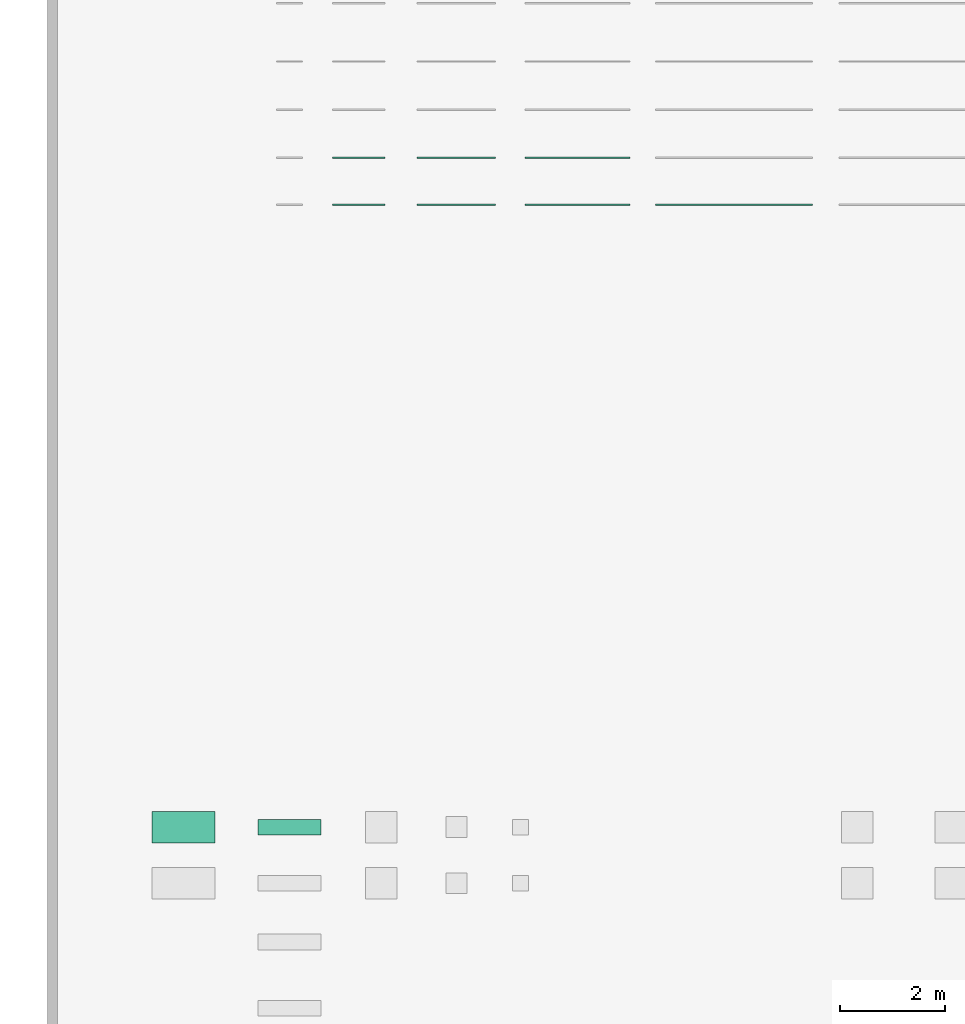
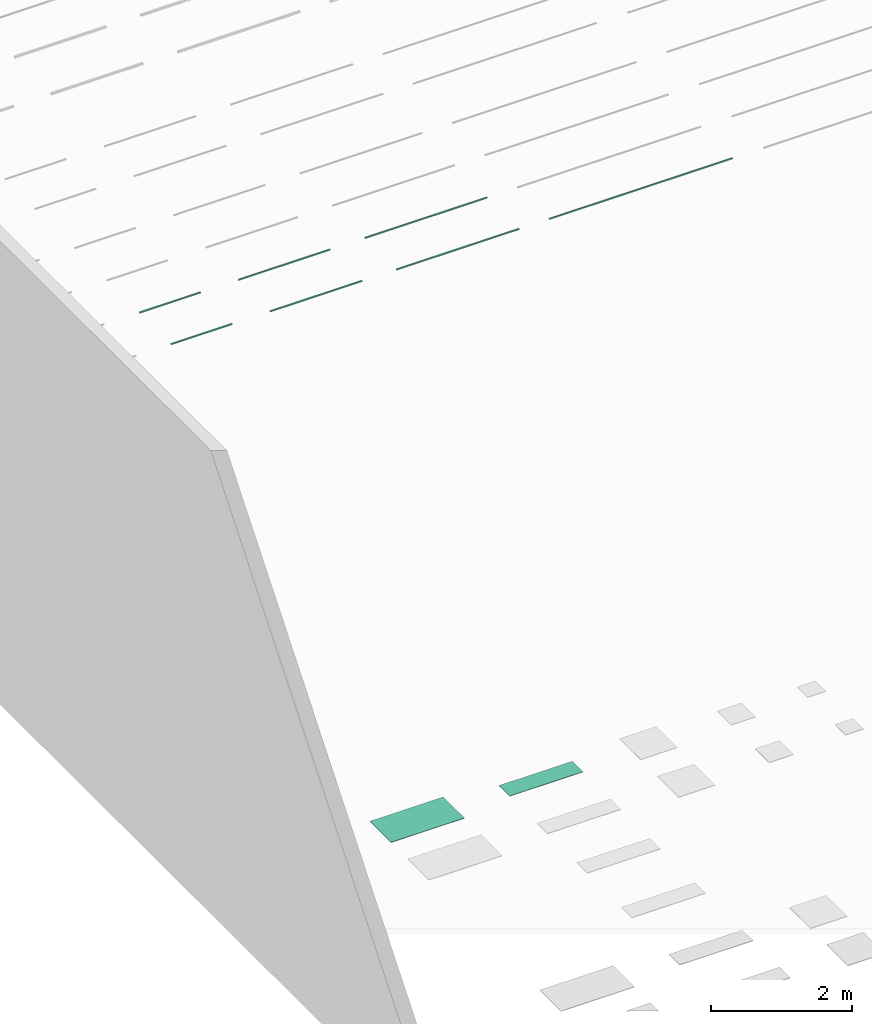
# One storey, part 5 of 197: 9 flow terminals.
"""IFC2X3 building model written with IfcOpenShell, lengths in metres."""

from ifc_helpers import new_model, entity, si_unit, converted_unit, direction, frame, frame_2d, origin, origin_2d_with_axis, place, context, subcontext, project, spatial, polyline, rectangle, circle, outline, extrude, source, transform, mapped, material, material_list, type_object, type_shapes, element, save


model = new_model("IFC2X3")

# Units and contexts
model_context = context("Model", 3, precision=1e-05, world=origin(), true_north=direction((6.123031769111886e-17, 1.0)))
body_context = subcontext(model_context, "Body", "Model", "MODEL_VIEW")
ifc_project = project(units=[si_unit("LENGTHUNIT", "METRE"), converted_unit("PLANEANGLEUNIT", "DEGREE", entity("IfcPlaneAngleMeasure", 0.017453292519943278), si_unit("PLANEANGLEUNIT", "RADIAN"), dimensions=[0, 0, 0, 0, 0, 0, 0]), si_unit("AREAUNIT", "SQUARE_METRE")], contexts=[model_context])

# Site, building, storey
site_placement = place(None, origin())
site = spatial("IfcSite", under=ifc_project, at=site_placement, Name="Default", CompositionType="ELEMENT")
building_placement = place(site_placement, origin())
building = spatial("IfcBuilding", under=site, at=building_placement, CompositionType="ELEMENT")
storey_placement = place(building_placement, origin())
storey = spatial("IfcBuildingStorey", under=building, at=storey_placement, Name="Niveau 0", CompositionType="ELEMENT", Elevation=0.0)

# Flow terminals
ifc_material_1 = material(Name="BETCE-DIFFUSEUR-BLANC")
ifc_material_2 = material(Name="<Unnamed>")
ifc_material_list = material_list([ifc_material_1, ifc_material_2])
light_fixture_type_1 = type_object("IfcLightFixtureType", Name="Profilé alu sailli_suspendu_engravure-20X20:PROF-ENGRAVURE -1.5M", PredefinedType="NOTDEFINED", material=ifc_material_list)
shared_shape_1 = source(origin(), body_context, "Body", "SweptSolid", [
    extrude(rectangle(XDim=1.496, YDim=0.018935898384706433, at=origin_2d_with_axis()), frame((0.0, 0.0, 1.4999999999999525), z_axis=(0.0, 0.0, 1.0), x_axis=(-1.0, 0.0, 0.0)), (0.0, 0.0, 1.0), 0.0008000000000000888),
    extrude(outline(polyline([(0.004349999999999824, -0.009467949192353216), (0.0051499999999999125, -0.009467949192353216), (0.0051499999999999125, 0.009467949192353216), (0.004349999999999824, 0.009467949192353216), (0.004349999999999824, 0.010467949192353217), (-0.0138500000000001, 0.010467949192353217), (-0.0138500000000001, -0.010467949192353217), (0.004349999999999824, -0.010467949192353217), (0.004349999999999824, -0.009467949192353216)])), frame((0.748, 0.0, 1.5051499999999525), z_axis=(1.0, 0.0, 0.0), x_axis=(0.0, 0.0, -1.0)), (0.0, 0.0, 1.0), 0.0019999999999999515),
    extrude(outline(polyline([(0.009467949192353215, -0.004349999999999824), (0.010467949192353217, -0.004349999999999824), (0.010467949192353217, 0.0138500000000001), (-0.010467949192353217, 0.0138500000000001), (-0.010467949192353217, -0.004349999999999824), (-0.009467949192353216, -0.004349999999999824), (-0.009467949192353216, -0.0051499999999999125), (0.009467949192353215, -0.0051499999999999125), (0.009467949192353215, -0.004349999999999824)])), frame((-0.7499999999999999, 0.0, 1.5051499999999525), z_axis=(1.0, 0.0, 0.0), x_axis=(0.0, 1.0, 0.0)), (0.0, 0.0, 1.0), 0.0019999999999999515),
    extrude(outline(polyline([(-0.012292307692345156, -0.011500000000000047), (0.007707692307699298, -0.011500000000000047), (0.007707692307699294, -0.009467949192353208), (0.0069076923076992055, -0.009467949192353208), (0.006907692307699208, -0.010467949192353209), (-0.011292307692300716, -0.010467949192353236), (-0.011292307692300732, 0.0), (-0.011292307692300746, 0.010467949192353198), (0.006907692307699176, 0.010467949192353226), (0.006907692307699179, 0.009467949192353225), (0.0077076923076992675, 0.009467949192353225), (0.007707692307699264, 0.011500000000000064), (-0.012292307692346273, 0.011500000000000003), (-0.012292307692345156, -0.011500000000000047)])), frame((-0.7499999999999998, 0.0, 1.5077076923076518), z_axis=(1.0, 0.0, 0.0), x_axis=(0.0, 0.0, -1.0)), (0.0, 0.0, 1.0), 1.4999999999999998),
    extrude(circle(Radius=0.0019999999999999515, at=frame_2d((1.5388467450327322e-29, 0.0), x_axis=(1.0, 0.0))), frame((-0.6499999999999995, 0.0, 1.5199999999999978), z_axis=(0.0, 0.0, 1.0), x_axis=(0.0, -1.0, 0.0)), (0.0, 0.0, 1.0), 0.0010000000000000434),
    extrude(circle(Radius=0.0019999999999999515, at=frame_2d((-4.123551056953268e-20, 0.0), x_axis=(1.0, 0.0))), frame((0.6500000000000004, 0.0, 1.5199999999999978), z_axis=(0.0, 0.0, 1.0), x_axis=(0.0, -1.0, 0.0)), (0.0, 0.0, 1.0), 0.0010000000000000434),
])
type_shapes(light_fixture_type_1, [shared_shape_1])
flow_terminal_1_placement = place(storey_placement, frame((-532.8067105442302, 60.49435524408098, 0.0)))
element("IfcFlowTerminal", 1, at=flow_terminal_1_placement, inside=storey, type_object=light_fixture_type_1, material=ifc_material_list, Name="Profilé alu sailli_suspendu_engravure-20X20:PROF-ENGRAVURE -1.5M", ObjectType="Profilé alu sailli_suspendu_engravure-20X20:PROF-ENGRAVURE -1.5M", context=body_context, shape_type="MappedRepresentation", body=[
    mapped(shared_shape_1, transform((0.0, 0.0, 0.0), scale=1.0)),
])
light_fixture_type_2 = type_object("IfcLightFixtureType", Name="Profilé alu sailli_suspendu_engravure-20X20:PROF-ENGRAVURE -1M", PredefinedType="NOTDEFINED", material=ifc_material_list)
shared_shape_2 = source(origin(), body_context, "Body", "SweptSolid", [
    extrude(rectangle(XDim=0.9959999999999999, YDim=0.018935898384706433, at=origin_2d_with_axis()), frame((0.0, 0.0, 1.4999999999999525), z_axis=(0.0, 0.0, 1.0), x_axis=(-1.0, 0.0, 0.0)), (0.0, 0.0, 1.0), 0.0008000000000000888),
    extrude(outline(polyline([(0.004349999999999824, -0.009467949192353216), (0.0051499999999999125, -0.009467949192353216), (0.0051499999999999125, 0.009467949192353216), (0.004349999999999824, 0.009467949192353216), (0.004349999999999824, 0.010467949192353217), (-0.0138500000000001, 0.010467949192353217), (-0.0138500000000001, -0.010467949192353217), (0.004349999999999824, -0.010467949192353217), (0.004349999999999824, -0.009467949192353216)])), frame((0.498, 0.0, 1.5051499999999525), z_axis=(1.0, 0.0, 0.0), x_axis=(0.0, 0.0, -1.0)), (0.0, 0.0, 1.0), 0.002000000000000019),
    extrude(outline(polyline([(0.009467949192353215, -0.004349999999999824), (0.010467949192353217, -0.004349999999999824), (0.010467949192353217, 0.0138500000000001), (-0.010467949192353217, 0.0138500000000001), (-0.010467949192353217, -0.004349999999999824), (-0.009467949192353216, -0.004349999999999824), (-0.009467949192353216, -0.0051499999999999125), (0.009467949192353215, -0.0051499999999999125), (0.009467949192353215, -0.004349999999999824)])), frame((-0.49999999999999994, 0.0, 1.5051499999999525), z_axis=(1.0, 0.0, 0.0), x_axis=(0.0, 1.0, 0.0)), (0.0, 0.0, 1.0), 0.002000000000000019),
    extrude(outline(polyline([(-0.012292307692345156, -0.011500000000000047), (0.007707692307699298, -0.011500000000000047), (0.007707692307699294, -0.009467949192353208), (0.0069076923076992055, -0.009467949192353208), (0.006907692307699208, -0.010467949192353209), (-0.011292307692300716, -0.010467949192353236), (-0.011292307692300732, 0.0), (-0.011292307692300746, 0.010467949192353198), (0.006907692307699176, 0.010467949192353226), (0.006907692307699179, 0.009467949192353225), (0.0077076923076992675, 0.009467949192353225), (0.007707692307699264, 0.011500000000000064), (-0.012292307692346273, 0.011500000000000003), (-0.012292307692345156, -0.011500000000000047)])), frame((-0.49999999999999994, 0.0, 1.5077076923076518), z_axis=(1.0, 0.0, 0.0), x_axis=(0.0, 0.0, -1.0)), (0.0, 0.0, 1.0), 1.0),
    extrude(circle(Radius=0.0019999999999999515, at=frame_2d((1.5388467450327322e-29, 0.0), x_axis=(1.0, 0.0))), frame((-0.3999999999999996, 0.0, 1.5199999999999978), z_axis=(0.0, 0.0, 1.0), x_axis=(0.0, -1.0, 0.0)), (0.0, 0.0, 1.0), 0.0010000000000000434),
    extrude(circle(Radius=0.0019999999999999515, at=frame_2d((-4.123551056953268e-20, 0.0), x_axis=(1.0, 0.0))), frame((0.40000000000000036, 0.0, 1.5199999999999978), z_axis=(0.0, 0.0, 1.0), x_axis=(0.0, -1.0, 0.0)), (0.0, 0.0, 1.0), 0.0010000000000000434),
])
type_shapes(light_fixture_type_2, [shared_shape_2])
flow_terminal_2_placement = place(storey_placement, frame((-534.6757105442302, 60.49435524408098, 0.0)))
element("IfcFlowTerminal", 2, at=flow_terminal_2_placement, inside=storey, type_object=light_fixture_type_2, material=ifc_material_list, Name="Profilé alu sailli_suspendu_engravure-20X20:PROF-ENGRAVURE -1M", ObjectType="Profilé alu sailli_suspendu_engravure-20X20:PROF-ENGRAVURE -1M", context=body_context, shape_type="MappedRepresentation", body=[
    mapped(shared_shape_2, transform((0.0, 0.0, 0.0), scale=1.0)),
])
light_fixture_type_3 = type_object("IfcLightFixtureType", Name="Profilé alu sailli_suspendu_engravure-20X20:PROF-ENGRAVURE -2M", PredefinedType="NOTDEFINED", material=ifc_material_list)
shared_shape_3 = source(origin(), body_context, "Body", "SweptSolid", [
    extrude(rectangle(XDim=1.996, YDim=0.018935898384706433, at=origin_2d_with_axis()), frame((0.0, 0.0, 1.4999999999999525), z_axis=(0.0, 0.0, 1.0), x_axis=(-1.0, 0.0, 0.0)), (0.0, 0.0, 1.0), 0.0008000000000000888),
    extrude(outline(polyline([(0.004349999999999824, -0.009467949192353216), (0.0051499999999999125, -0.009467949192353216), (0.0051499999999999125, 0.009467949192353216), (0.004349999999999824, 0.009467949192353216), (0.004349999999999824, 0.010467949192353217), (-0.0138500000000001, 0.010467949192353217), (-0.0138500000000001, -0.010467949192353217), (0.004349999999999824, -0.010467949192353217), (0.004349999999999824, -0.009467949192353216)])), frame((0.9980000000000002, 0.0, 1.5051499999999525), z_axis=(1.0, 0.0, 0.0), x_axis=(0.0, 0.0, -1.0)), (0.0, 0.0, 1.0), 0.0019999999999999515),
    extrude(outline(polyline([(0.009467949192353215, -0.004349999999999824), (0.010467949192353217, -0.004349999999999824), (0.010467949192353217, 0.0138500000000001), (-0.010467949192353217, 0.0138500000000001), (-0.010467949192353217, -0.004349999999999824), (-0.009467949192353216, -0.004349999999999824), (-0.009467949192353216, -0.0051499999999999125), (0.009467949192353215, -0.0051499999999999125), (0.009467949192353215, -0.004349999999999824)])), frame((-1.0, 0.0, 1.5051499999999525), z_axis=(1.0, 0.0, 0.0), x_axis=(0.0, 1.0, 0.0)), (0.0, 0.0, 1.0), 0.0019999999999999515),
    extrude(outline(polyline([(-0.012292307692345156, -0.011500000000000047), (0.007707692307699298, -0.011500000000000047), (0.007707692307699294, -0.009467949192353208), (0.0069076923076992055, -0.009467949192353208), (0.006907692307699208, -0.010467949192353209), (-0.011292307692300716, -0.010467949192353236), (-0.011292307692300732, 0.0), (-0.011292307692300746, 0.010467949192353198), (0.006907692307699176, 0.010467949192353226), (0.006907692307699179, 0.009467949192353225), (0.0077076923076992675, 0.009467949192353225), (0.007707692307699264, 0.011500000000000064), (-0.012292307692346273, 0.011500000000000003), (-0.012292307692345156, -0.011500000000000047)])), frame((-1.0, 0.0, 1.5077076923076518), z_axis=(1.0, 0.0, 0.0), x_axis=(0.0, 0.0, -1.0)), (0.0, 0.0, 1.0), 1.9999999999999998),
    extrude(circle(Radius=0.0019999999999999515, at=frame_2d((8.359256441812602e-30, 0.0), x_axis=(1.0, 0.0))), frame((-0.8999999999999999, 0.0, 1.5199999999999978), z_axis=(0.0, 0.0, 1.0), x_axis=(0.0, -1.0, 0.0)), (0.0, 0.0, 1.0), 0.0010000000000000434),
    extrude(circle(Radius=0.0019999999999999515, at=frame_2d((-4.123551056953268e-20, 0.0), x_axis=(1.0, 0.0))), frame((0.9000000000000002, 0.0, 1.5199999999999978), z_axis=(0.0, 0.0, 1.0), x_axis=(0.0, -1.0, 0.0)), (0.0, 0.0, 1.0), 0.0010000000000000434),
])
type_shapes(light_fixture_type_3, [shared_shape_3])
flow_terminal_3_placement = place(storey_placement, frame((-530.4917105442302, 60.49435524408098, 0.0)))
element("IfcFlowTerminal", 3, at=flow_terminal_3_placement, inside=storey, type_object=light_fixture_type_3, material=ifc_material_list, Name="Profilé alu sailli_suspendu_engravure-20X20:PROF-ENGRAVURE -2M", ObjectType="Profilé alu sailli_suspendu_engravure-20X20:PROF-ENGRAVURE -2M", context=body_context, shape_type="MappedRepresentation", body=[
    mapped(shared_shape_3, transform((0.0, 0.0, 0.0), scale=1.0)),
])
light_fixture_type_4 = type_object("IfcLightFixtureType", Name="Profilé alu sailli_suspendu_engravure-20X20:PROF-ENGRAVURE DALI -1.5M", PredefinedType="NOTDEFINED", material=ifc_material_list)
shared_shape_4 = source(origin(), body_context, "Body", "SweptSolid", [
    extrude(rectangle(XDim=1.496, YDim=0.018935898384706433, at=origin_2d_with_axis()), frame((0.0, 0.0, 1.4999999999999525), z_axis=(0.0, 0.0, 1.0), x_axis=(-1.0, 0.0, 0.0)), (0.0, 0.0, 1.0), 0.0008000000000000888),
    extrude(outline(polyline([(0.004349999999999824, -0.009467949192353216), (0.0051499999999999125, -0.009467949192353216), (0.0051499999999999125, 0.009467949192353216), (0.004349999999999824, 0.009467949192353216), (0.004349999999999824, 0.010467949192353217), (-0.0138500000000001, 0.010467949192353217), (-0.0138500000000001, -0.010467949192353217), (0.004349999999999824, -0.010467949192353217), (0.004349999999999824, -0.009467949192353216)])), frame((0.748, 0.0, 1.5051499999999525), z_axis=(1.0, 0.0, 0.0), x_axis=(0.0, 0.0, -1.0)), (0.0, 0.0, 1.0), 0.0019999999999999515),
    extrude(outline(polyline([(0.009467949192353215, -0.004349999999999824), (0.010467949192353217, -0.004349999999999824), (0.010467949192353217, 0.0138500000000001), (-0.010467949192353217, 0.0138500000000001), (-0.010467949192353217, -0.004349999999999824), (-0.009467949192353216, -0.004349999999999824), (-0.009467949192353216, -0.0051499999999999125), (0.009467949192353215, -0.0051499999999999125), (0.009467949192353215, -0.004349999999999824)])), frame((-0.7499999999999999, 0.0, 1.5051499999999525), z_axis=(1.0, 0.0, 0.0), x_axis=(0.0, 1.0, 0.0)), (0.0, 0.0, 1.0), 0.0019999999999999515),
    extrude(outline(polyline([(-0.012292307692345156, -0.011500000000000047), (0.007707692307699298, -0.011500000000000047), (0.007707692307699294, -0.009467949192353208), (0.0069076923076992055, -0.009467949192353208), (0.006907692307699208, -0.010467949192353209), (-0.011292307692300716, -0.010467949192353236), (-0.011292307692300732, 0.0), (-0.011292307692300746, 0.010467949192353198), (0.006907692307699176, 0.010467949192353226), (0.006907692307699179, 0.009467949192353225), (0.0077076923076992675, 0.009467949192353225), (0.007707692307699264, 0.011500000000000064), (-0.012292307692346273, 0.011500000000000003), (-0.012292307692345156, -0.011500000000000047)])), frame((-0.7499999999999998, 0.0, 1.5077076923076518), z_axis=(1.0, 0.0, 0.0), x_axis=(0.0, 0.0, -1.0)), (0.0, 0.0, 1.0), 1.4999999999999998),
    extrude(circle(Radius=0.0019999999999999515, at=frame_2d((1.5388467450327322e-29, 0.0), x_axis=(1.0, 0.0))), frame((-0.6499999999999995, 0.0, 1.5199999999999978), z_axis=(0.0, 0.0, 1.0), x_axis=(0.0, -1.0, 0.0)), (0.0, 0.0, 1.0), 0.0010000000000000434),
    extrude(circle(Radius=0.0019999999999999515, at=frame_2d((-4.123551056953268e-20, 0.0), x_axis=(1.0, 0.0))), frame((0.6500000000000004, 0.0, 1.5199999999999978), z_axis=(0.0, 0.0, 1.0), x_axis=(0.0, -1.0, 0.0)), (0.0, 0.0, 1.0), 0.0010000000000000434),
])
type_shapes(light_fixture_type_4, [shared_shape_4])
flow_terminal_4_placement = place(storey_placement, frame((-532.8067105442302, 59.59735524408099, 0.0)))
element("IfcFlowTerminal", 4, at=flow_terminal_4_placement, inside=storey, type_object=light_fixture_type_4, material=ifc_material_list, Name="Profilé alu sailli_suspendu_engravure-20X20:PROF-ENGRAVURE DALI -1.5M", ObjectType="Profilé alu sailli_suspendu_engravure-20X20:PROF-ENGRAVURE DALI -1.5M", context=body_context, shape_type="MappedRepresentation", body=[
    mapped(shared_shape_4, transform((0.0, 0.0, 0.0), scale=1.0)),
])
light_fixture_type_5 = type_object("IfcLightFixtureType", Name="Profilé alu sailli_suspendu_engravure-20X20:PROF-ENGRAVURE DALI -1M", PredefinedType="NOTDEFINED", material=ifc_material_list)
shared_shape_5 = source(origin(), body_context, "Body", "SweptSolid", [
    extrude(rectangle(XDim=0.9959999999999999, YDim=0.018935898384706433, at=origin_2d_with_axis()), frame((0.0, 0.0, 1.4999999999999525), z_axis=(0.0, 0.0, 1.0), x_axis=(-1.0, 0.0, 0.0)), (0.0, 0.0, 1.0), 0.0008000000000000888),
    extrude(outline(polyline([(0.004349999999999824, -0.009467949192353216), (0.0051499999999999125, -0.009467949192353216), (0.0051499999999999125, 0.009467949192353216), (0.004349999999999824, 0.009467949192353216), (0.004349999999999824, 0.010467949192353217), (-0.0138500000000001, 0.010467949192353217), (-0.0138500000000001, -0.010467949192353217), (0.004349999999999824, -0.010467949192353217), (0.004349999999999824, -0.009467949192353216)])), frame((0.498, 0.0, 1.5051499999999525), z_axis=(1.0, 0.0, 0.0), x_axis=(0.0, 0.0, -1.0)), (0.0, 0.0, 1.0), 0.002000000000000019),
    extrude(outline(polyline([(0.009467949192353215, -0.004349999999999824), (0.010467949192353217, -0.004349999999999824), (0.010467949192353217, 0.0138500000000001), (-0.010467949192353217, 0.0138500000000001), (-0.010467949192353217, -0.004349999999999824), (-0.009467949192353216, -0.004349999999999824), (-0.009467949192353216, -0.0051499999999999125), (0.009467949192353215, -0.0051499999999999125), (0.009467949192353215, -0.004349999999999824)])), frame((-0.49999999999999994, 0.0, 1.5051499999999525), z_axis=(1.0, 0.0, 0.0), x_axis=(0.0, 1.0, 0.0)), (0.0, 0.0, 1.0), 0.002000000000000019),
    extrude(outline(polyline([(-0.012292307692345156, -0.011500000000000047), (0.007707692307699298, -0.011500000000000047), (0.007707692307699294, -0.009467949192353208), (0.0069076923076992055, -0.009467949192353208), (0.006907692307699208, -0.010467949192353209), (-0.011292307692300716, -0.010467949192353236), (-0.011292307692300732, 0.0), (-0.011292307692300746, 0.010467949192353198), (0.006907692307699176, 0.010467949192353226), (0.006907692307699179, 0.009467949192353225), (0.0077076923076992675, 0.009467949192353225), (0.007707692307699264, 0.011500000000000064), (-0.012292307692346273, 0.011500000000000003), (-0.012292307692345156, -0.011500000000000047)])), frame((-0.49999999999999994, 0.0, 1.5077076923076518), z_axis=(1.0, 0.0, 0.0), x_axis=(0.0, 0.0, -1.0)), (0.0, 0.0, 1.0), 1.0),
    extrude(circle(Radius=0.0019999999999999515, at=frame_2d((1.5388467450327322e-29, 0.0), x_axis=(1.0, 0.0))), frame((-0.3999999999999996, 0.0, 1.5199999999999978), z_axis=(0.0, 0.0, 1.0), x_axis=(0.0, -1.0, 0.0)), (0.0, 0.0, 1.0), 0.0010000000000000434),
    extrude(circle(Radius=0.0019999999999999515, at=frame_2d((-4.123551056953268e-20, 0.0), x_axis=(1.0, 0.0))), frame((0.40000000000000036, 0.0, 1.5199999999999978), z_axis=(0.0, 0.0, 1.0), x_axis=(0.0, -1.0, 0.0)), (0.0, 0.0, 1.0), 0.0010000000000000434),
])
type_shapes(light_fixture_type_5, [shared_shape_5])
flow_terminal_5_placement = place(storey_placement, frame((-534.6757105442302, 59.59735524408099, 0.0)))
element("IfcFlowTerminal", 5, at=flow_terminal_5_placement, inside=storey, type_object=light_fixture_type_5, material=ifc_material_list, Name="Profilé alu sailli_suspendu_engravure-20X20:PROF-ENGRAVURE DALI -1M", ObjectType="Profilé alu sailli_suspendu_engravure-20X20:PROF-ENGRAVURE DALI -1M", context=body_context, shape_type="MappedRepresentation", body=[
    mapped(shared_shape_5, transform((0.0, 0.0, 0.0), scale=1.0)),
])
light_fixture_type_6 = type_object("IfcLightFixtureType", Name="Profilé alu sailli_suspendu_engravure-20X20:PROF-ENGRAVURE DALI -2M", PredefinedType="NOTDEFINED", material=ifc_material_list)
shared_shape_6 = source(origin(), body_context, "Body", "SweptSolid", [
    extrude(rectangle(XDim=1.996, YDim=0.018935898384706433, at=origin_2d_with_axis()), frame((0.0, 0.0, 1.4999999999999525), z_axis=(0.0, 0.0, 1.0), x_axis=(-1.0, 0.0, 0.0)), (0.0, 0.0, 1.0), 0.0008000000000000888),
    extrude(outline(polyline([(0.004349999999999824, -0.009467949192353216), (0.0051499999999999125, -0.009467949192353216), (0.0051499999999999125, 0.009467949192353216), (0.004349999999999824, 0.009467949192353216), (0.004349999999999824, 0.010467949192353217), (-0.0138500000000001, 0.010467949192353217), (-0.0138500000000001, -0.010467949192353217), (0.004349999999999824, -0.010467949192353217), (0.004349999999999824, -0.009467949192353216)])), frame((0.9980000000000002, 0.0, 1.5051499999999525), z_axis=(1.0, 0.0, 0.0), x_axis=(0.0, 0.0, -1.0)), (0.0, 0.0, 1.0), 0.0019999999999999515),
    extrude(outline(polyline([(0.009467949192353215, -0.004349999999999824), (0.010467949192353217, -0.004349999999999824), (0.010467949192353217, 0.0138500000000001), (-0.010467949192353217, 0.0138500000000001), (-0.010467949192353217, -0.004349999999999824), (-0.009467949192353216, -0.004349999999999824), (-0.009467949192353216, -0.0051499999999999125), (0.009467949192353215, -0.0051499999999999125), (0.009467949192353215, -0.004349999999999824)])), frame((-1.0, 0.0, 1.5051499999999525), z_axis=(1.0, 0.0, 0.0), x_axis=(0.0, 1.0, 0.0)), (0.0, 0.0, 1.0), 0.0019999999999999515),
    extrude(outline(polyline([(-0.012292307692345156, -0.011500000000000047), (0.007707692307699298, -0.011500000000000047), (0.007707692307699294, -0.009467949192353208), (0.0069076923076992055, -0.009467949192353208), (0.006907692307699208, -0.010467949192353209), (-0.011292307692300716, -0.010467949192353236), (-0.011292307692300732, 0.0), (-0.011292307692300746, 0.010467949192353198), (0.006907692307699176, 0.010467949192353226), (0.006907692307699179, 0.009467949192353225), (0.0077076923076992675, 0.009467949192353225), (0.007707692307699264, 0.011500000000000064), (-0.012292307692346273, 0.011500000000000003), (-0.012292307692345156, -0.011500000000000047)])), frame((-1.0, 0.0, 1.5077076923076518), z_axis=(1.0, 0.0, 0.0), x_axis=(0.0, 0.0, -1.0)), (0.0, 0.0, 1.0), 1.9999999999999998),
    extrude(circle(Radius=0.0019999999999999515, at=frame_2d((8.359256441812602e-30, 0.0), x_axis=(1.0, 0.0))), frame((-0.8999999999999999, 0.0, 1.5199999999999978), z_axis=(0.0, 0.0, 1.0), x_axis=(0.0, -1.0, 0.0)), (0.0, 0.0, 1.0), 0.0010000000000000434),
    extrude(circle(Radius=0.0019999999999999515, at=frame_2d((-4.123551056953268e-20, 0.0), x_axis=(1.0, 0.0))), frame((0.9000000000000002, 0.0, 1.5199999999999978), z_axis=(0.0, 0.0, 1.0), x_axis=(0.0, -1.0, 0.0)), (0.0, 0.0, 1.0), 0.0010000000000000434),
])
type_shapes(light_fixture_type_6, [shared_shape_6])
flow_terminal_6_placement = place(storey_placement, frame((-530.4917105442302, 59.59735524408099, 0.0)))
element("IfcFlowTerminal", 6, at=flow_terminal_6_placement, inside=storey, type_object=light_fixture_type_6, material=ifc_material_list, Name="Profilé alu sailli_suspendu_engravure-20X20:PROF-ENGRAVURE DALI -2M", ObjectType="Profilé alu sailli_suspendu_engravure-20X20:PROF-ENGRAVURE DALI -2M", context=body_context, shape_type="MappedRepresentation", body=[
    mapped(shared_shape_6, transform((0.0, 0.0, 0.0), scale=1.0)),
])
light_fixture_type_7 = type_object("IfcLightFixtureType", Name="Profilé alu sailli_suspendu_engravure-20X20:PROF-ENGRAVURE DALI -3M", PredefinedType="NOTDEFINED", material=ifc_material_list)
shared_shape_7 = source(origin(), body_context, "Body", "SweptSolid", [
    extrude(rectangle(XDim=2.9959999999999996, YDim=0.018935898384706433, at=origin_2d_with_axis()), frame((0.0, 0.0, 1.4999999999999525), z_axis=(0.0, 0.0, 1.0), x_axis=(-1.0, 0.0, 0.0)), (0.0, 0.0, 1.0), 0.0008000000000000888),
    extrude(outline(polyline([(0.004349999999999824, -0.009467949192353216), (0.0051499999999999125, -0.009467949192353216), (0.0051499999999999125, 0.009467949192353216), (0.004349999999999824, 0.009467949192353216), (0.004349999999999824, 0.010467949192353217), (-0.0138500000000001, 0.010467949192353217), (-0.0138500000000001, -0.010467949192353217), (0.004349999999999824, -0.010467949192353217), (0.004349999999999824, -0.009467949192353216)])), frame((1.4979999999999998, 0.0, 1.5051499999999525), z_axis=(1.0, 0.0, 0.0), x_axis=(0.0, 0.0, -1.0)), (0.0, 0.0, 1.0), 0.0020000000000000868),
    extrude(outline(polyline([(0.009467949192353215, -0.004349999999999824), (0.010467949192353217, -0.004349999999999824), (0.010467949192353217, 0.0138500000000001), (-0.010467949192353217, 0.0138500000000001), (-0.010467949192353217, -0.004349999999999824), (-0.009467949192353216, -0.004349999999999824), (-0.009467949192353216, -0.0051499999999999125), (0.009467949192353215, -0.0051499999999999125), (0.009467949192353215, -0.004349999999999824)])), frame((-1.4999999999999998, 0.0, 1.5051499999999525), z_axis=(1.0, 0.0, 0.0), x_axis=(0.0, 1.0, 0.0)), (0.0, 0.0, 1.0), 0.0020000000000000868),
    extrude(outline(polyline([(-0.012292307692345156, -0.011500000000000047), (0.007707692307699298, -0.011500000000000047), (0.007707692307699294, -0.009467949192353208), (0.0069076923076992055, -0.009467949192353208), (0.006907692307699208, -0.010467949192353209), (-0.011292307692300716, -0.010467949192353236), (-0.011292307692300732, 0.0), (-0.011292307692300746, 0.010467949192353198), (0.006907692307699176, 0.010467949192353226), (0.006907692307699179, 0.009467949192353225), (0.0077076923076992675, 0.009467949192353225), (0.007707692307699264, 0.011500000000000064), (-0.012292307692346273, 0.011500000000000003), (-0.012292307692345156, -0.011500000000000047)])), frame((-1.4999999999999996, 0.0, 1.5077076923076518), z_axis=(1.0, 0.0, 0.0), x_axis=(0.0, 0.0, -1.0)), (0.0, 0.0, 1.0), 2.9999999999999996),
    extrude(circle(Radius=0.0019999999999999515, at=frame_2d((1.5388467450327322e-29, 0.0), x_axis=(1.0, 0.0))), frame((-1.3999999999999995, 0.0, 1.5199999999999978), z_axis=(0.0, 0.0, 1.0), x_axis=(0.0, -1.0, 0.0)), (0.0, 0.0, 1.0), 0.0010000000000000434),
    extrude(circle(Radius=0.0019999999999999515, at=frame_2d((-4.123551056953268e-20, 0.0), x_axis=(1.0, 0.0))), frame((1.4000000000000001, 0.0, 1.5199999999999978), z_axis=(0.0, 0.0, 1.0), x_axis=(0.0, -1.0, 0.0)), (0.0, 0.0, 1.0), 0.0010000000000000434),
])
type_shapes(light_fixture_type_7, [shared_shape_7])
flow_terminal_7_placement = place(storey_placement, frame((-527.4987105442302, 59.59735524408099, 0.0)))
element("IfcFlowTerminal", 7, at=flow_terminal_7_placement, inside=storey, type_object=light_fixture_type_7, material=ifc_material_list, Name="Profilé alu sailli_suspendu_engravure-20X20:PROF-ENGRAVURE DALI -3M", ObjectType="Profilé alu sailli_suspendu_engravure-20X20:PROF-ENGRAVURE DALI -3M", context=body_context, shape_type="MappedRepresentation", body=[
    mapped(shared_shape_7, transform((0.0, 0.0, 0.0), scale=1.0)),
])
light_fixture_type_8 = type_object("IfcLightFixtureType", Name="Pavé LED encastré_saillie_suspendu:ENCASTRE - 1200X600", PredefinedType="NOTDEFINED", material=ifc_material_2)
shared_shape_8 = source(origin(), body_context, "Body", "SweptSolid", [
    extrude(rectangle(XDim=1.16, YDim=0.56, at=origin_2d_with_axis()), frame((0.0, 0.0, 1.5013367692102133), z_axis=(0.0, 0.0, 1.0), x_axis=(-1.0, 0.0, 0.0)), (0.0, 0.0, 1.0), 0.008663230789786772),
    extrude(outline(polyline([(-0.6, -0.30000000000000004), (0.6, -0.30000000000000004), (0.6, 0.30000000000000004), (-0.6, 0.30000000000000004), (-0.6, -0.30000000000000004)]), holes=[polyline([(0.58, -0.28), (-0.5800000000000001, -0.28), (-0.5800000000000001, 0.28), (0.58, 0.28), (0.58, -0.28)])]), frame((0.0, 0.0, 1.499999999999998), z_axis=(0.0, 0.0, 1.0), x_axis=(-1.0, 0.0, 0.0)), (0.0, 0.0, 1.0), 0.010000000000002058),
    extrude(circle(Radius=0.0014999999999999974, at=origin_2d_with_axis()), frame((0.5899999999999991, -0.2900000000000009, 1.51)), (0.0, 0.0, 1.0), 0.0010000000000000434),
    extrude(circle(Radius=0.0014999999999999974, at=origin_2d_with_axis()), frame((0.5899999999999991, 0.2900000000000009, 1.51)), (0.0, 0.0, 1.0), 0.0010000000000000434),
    extrude(circle(Radius=0.0014999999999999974, at=origin_2d_with_axis()), frame((-0.59, 0.2900000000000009, 1.51)), (0.0, 0.0, 1.0), 0.0010000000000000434),
    extrude(circle(Radius=0.0014999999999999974, at=origin_2d_with_axis()), frame((-0.59, -0.2900000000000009, 1.51)), (0.0, 0.0, 1.0), 0.0010000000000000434),
])
type_shapes(light_fixture_type_8, [shared_shape_8])
flow_terminal_8_placement = place(storey_placement, frame((-538.0227105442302, 47.699573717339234, 0.0)))
element("IfcFlowTerminal", 8, at=flow_terminal_8_placement, inside=storey, type_object=light_fixture_type_8, material=ifc_material_2, Name="Pavé LED encastré_saillie_suspendu:ENCASTRE - 1200X600", ObjectType="Pavé LED encastré_saillie_suspendu:ENCASTRE - 1200X600", context=body_context, shape_type="MappedRepresentation", body=[
    mapped(shared_shape_8, transform((0.0, 0.0, 0.0), scale=1.0)),
])
light_fixture_type_9 = type_object("IfcLightFixtureType", Name="Pavé LED encastré_saillie_suspendu:ENCASTRE - 1200X300", PredefinedType="NOTDEFINED", material=ifc_material_2)
shared_shape_9 = source(origin(), body_context, "Body", "SweptSolid", [
    extrude(rectangle(XDim=1.16, YDim=0.26, at=origin_2d_with_axis()), frame((0.0, 0.0, 1.5013367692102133), z_axis=(0.0, 0.0, 1.0), x_axis=(-1.0, 0.0, 0.0)), (0.0, 0.0, 1.0), 0.008663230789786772),
    extrude(outline(polyline([(-0.6, -0.15), (0.6, -0.15), (0.6, 0.15), (-0.6, 0.15), (-0.6, -0.15)]), holes=[polyline([(0.58, -0.13), (-0.5800000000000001, -0.13), (-0.5800000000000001, 0.13), (0.58, 0.13), (0.58, -0.13)])]), frame((0.0, 0.0, 1.499999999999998), z_axis=(0.0, 0.0, 1.0), x_axis=(-1.0, 0.0, 0.0)), (0.0, 0.0, 1.0), 0.010000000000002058),
    extrude(circle(Radius=0.0014999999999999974, at=origin_2d_with_axis()), frame((0.5899999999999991, -0.14000000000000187, 1.51)), (0.0, 0.0, 1.0), 0.0010000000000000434),
    extrude(circle(Radius=0.0014999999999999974, at=origin_2d_with_axis()), frame((0.5899999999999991, 0.13999999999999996, 1.51)), (0.0, 0.0, 1.0), 0.0010000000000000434),
    extrude(circle(Radius=0.0014999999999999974, at=origin_2d_with_axis()), frame((-0.59, 0.13999999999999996, 1.51)), (0.0, 0.0, 1.0), 0.0010000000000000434),
    extrude(circle(Radius=0.0014999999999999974, at=origin_2d_with_axis()), frame((-0.59, -0.14000000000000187, 1.51)), (0.0, 0.0, 1.0), 0.0010000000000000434),
])
type_shapes(light_fixture_type_9, [shared_shape_9])
flow_terminal_9_placement = place(storey_placement, frame((-535.9987105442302, 47.699573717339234, 0.0)))
element("IfcFlowTerminal", 9, at=flow_terminal_9_placement, inside=storey, type_object=light_fixture_type_9, material=ifc_material_2, Name="Pavé LED encastré_saillie_suspendu:ENCASTRE - 1200X300", ObjectType="Pavé LED encastré_saillie_suspendu:ENCASTRE - 1200X300", context=body_context, shape_type="MappedRepresentation", body=[
    mapped(shared_shape_9, transform((0.0, 0.0, 0.0), scale=1.0)),
])

save(model, "model.ifc")
